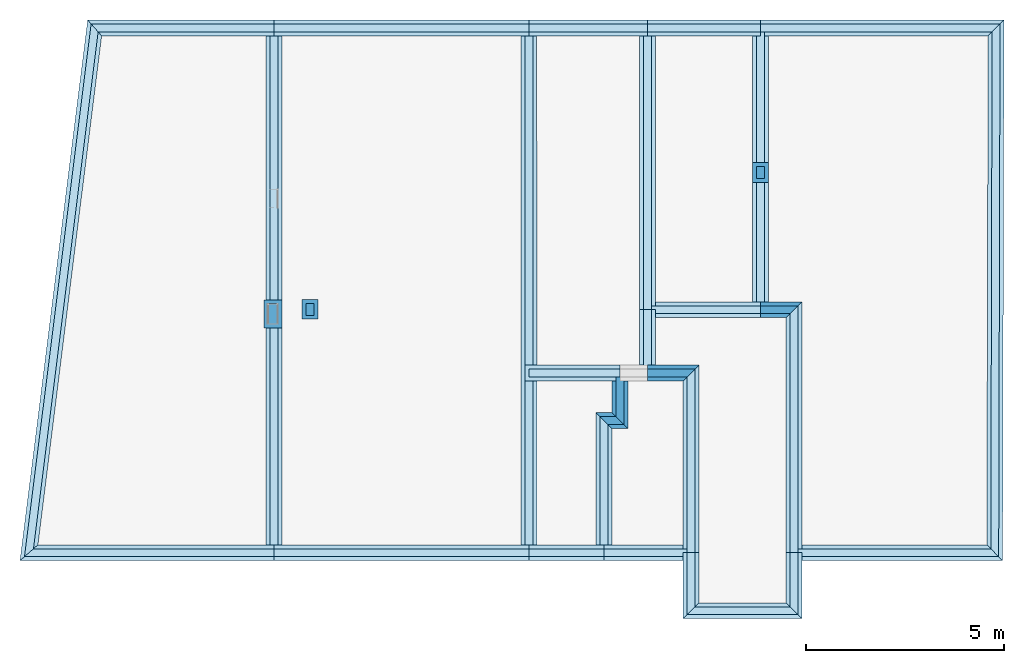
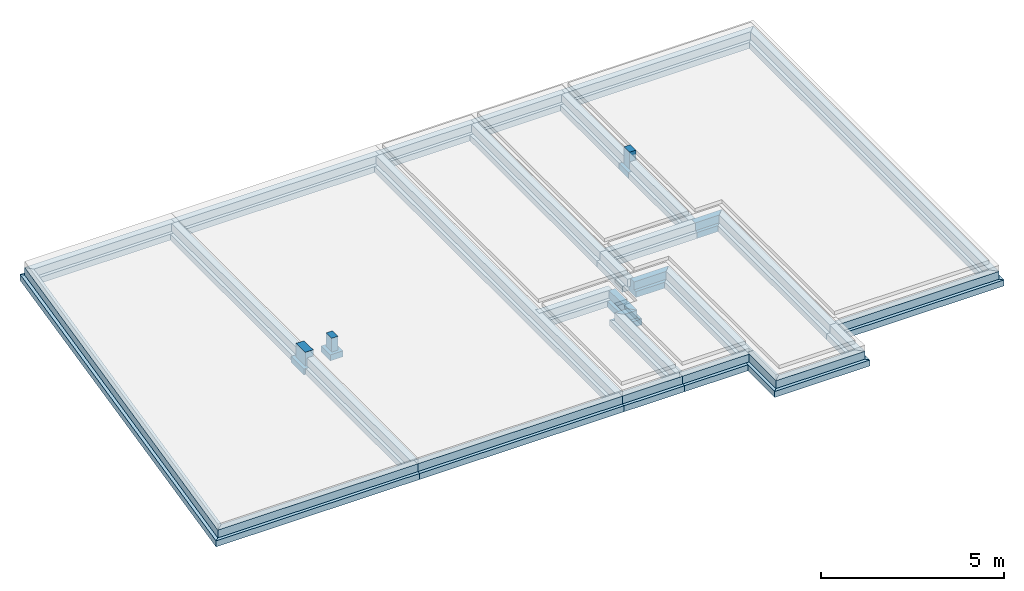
# One storey, part 1 of 6: 33 footings.
"""IFC2X3 building model written with IfcOpenShell, lengths in metres."""

import ifcopenshell
import ifcopenshell.guid

model = None  # the IFC model being written
_history = None  # IfcOwnerHistory: only IFC2X3 demands one
_inside = {}  # id of a spatial element -> (the spatial element, [elements in it])
_under = {}  # id of a project, library or spatial element -> (it, [spatial elements below it])
_declared = {}  # id of a project -> (the project, [libraries it declares])
_typed = {}  # id of a type object -> (the type object, [elements of that type])
_made_of = {}  # id of a material, layer set ... -> (it, [elements and type objects made of it])


def new_model(schema):
    """Start an empty IFC model of exactly this schema.

    Asked for "IFC4X3", IfcOpenShell would pick the latest addendum, in which some entities
    have other attributes; the version numbers below select the first issue.
    IFC2X3 requires an IfcOwnerHistory on every rooted entity: one is made here for all.
    """
    global model, _history
    if schema == "IFC4X3":
        model = ifcopenshell.file(schema_version=(4, 3, 0, 0))
    else:
        model = ifcopenshell.file(schema=schema)
    _inside.clear()
    _under.clear()
    _declared.clear()
    _typed.clear()
    _made_of.clear()
    _history = None
    if model.schema == "IFC2X3":
        org = make("IfcOrganization", Name="unknown")
        user = make(
            "IfcPersonAndOrganization",
            ThePerson=make("IfcPerson", FamilyName="unknown"),
            TheOrganization=org,
        )
        app = make(
            "IfcApplication",
            ApplicationDeveloper=org,
            Version="unknown",
            ApplicationFullName="unknown",
            ApplicationIdentifier="unknown",
        )
        _history = make(
            "IfcOwnerHistory",
            OwningUser=user,
            OwningApplication=app,
            ChangeAction="ADDED",
            CreationDate=0,
        )
    return model


def make(cls, **values):
    """One entity of the class cls with the attributes given. An attribute that is None is left unset."""
    return model.create_entity(
        cls, **{name: value for name, value in values.items() if value is not None}
    )


def rooted(cls, **values):
    """An entity with a GlobalId (a new one), such as an element, a storey or a relation."""
    return make(cls, GlobalId=ifcopenshell.guid.new(), OwnerHistory=_history, **values)


def si_unit(unit_type, name, prefix=None):
    """IfcSIUnit, for example si_unit("LENGTHUNIT", "METRE", prefix="MILLI")."""
    return make("IfcSIUnit", UnitType=unit_type, Prefix=prefix, Name=name)


def assignment(units):
    """IfcUnitAssignment: the units of a project."""
    return None if units is None else make("IfcUnitAssignment", Units=units)


def point(xyz):
    """IfcCartesianPoint."""
    return None if xyz is None else make("IfcCartesianPoint", Coordinates=xyz)


def direction(xyz):
    """IfcDirection."""
    return None if xyz is None else make("IfcDirection", DirectionRatios=xyz)


def frame(location, z_axis=None, x_axis=None):
    """IfcAxis2Placement3D, a coordinate frame: its origin and axes. An axis left out is left unset."""
    return make(
        "IfcAxis2Placement3D",
        Location=point(location),
        Axis=direction(z_axis),
        RefDirection=direction(x_axis),
    )


def frame_2d(location, x_axis=None):
    """IfcAxis2Placement2D, a coordinate frame in the plane: its origin and x axis."""
    return make(
        "IfcAxis2Placement2D", Location=point(location), RefDirection=direction(x_axis)
    )


def origin_with_axes():
    """The frame at (0, 0, 0) with the z axis (0, 0, 1) and the x axis (1, 0, 0) written out."""
    return frame((0.0, 0.0, 0.0), z_axis=(0.0, 0.0, 1.0), x_axis=(1.0, 0.0, 0.0))


def origin_2d():
    """The frame at (0, 0) in the plane with its x axis left unset."""
    return frame_2d((0.0, 0.0))


def place(relative_to, where):
    """IfcLocalPlacement: puts the frame where relative to a parent placement (None: the world)."""
    return make(
        "IfcLocalPlacement", PlacementRelTo=relative_to, RelativePlacement=where
    )


def context(
    kind, dimensions, precision=None, world=None, true_north=None, identifier=None
):
    """IfcGeometricRepresentationContext, for example the 3D "Model" context."""
    return make(
        "IfcGeometricRepresentationContext",
        ContextIdentifier=identifier,
        ContextType=kind,
        CoordinateSpaceDimension=dimensions,
        Precision=precision,
        WorldCoordinateSystem=world,
        TrueNorth=true_north,
    )


def subcontext(parent, identifier, kind, view, scale=None):
    """IfcGeometricRepresentationSubContext, for example "Body" below "Model"."""
    return make(
        "IfcGeometricRepresentationSubContext",
        ContextIdentifier=identifier,
        ContextType=kind,
        ParentContext=parent,
        TargetScale=scale,
        TargetView=view,
    )


def project(units=None, contexts=None):
    """IfcProject with its units and contexts."""
    return rooted(
        "IfcProject",
        Name="project",
        RepresentationContexts=contexts,
        UnitsInContext=assignment(units),
    )


def spatial(cls, under=None, at=None, **own):
    """A site, building, storey or space (cls), placed at a placement, below another one or the project."""
    s = rooted(cls, ObjectPlacement=at, **own)
    if under is not None:
        _under.setdefault(under.id(), (under, []))[1].append(s)
    return s


def polyline(points):
    """IfcPolyline through the points."""
    return make("IfcPolyline", Points=[point(p) for p in points])


def profile(cls, at=None, kind="AREA", **sizes):
    """A parametric profile (cls). Its sizes go by their IFC names, for example OverallWidth=200.0."""
    return make(cls, ProfileType=kind, Position=at, **sizes)


def rectangle(**sizes):
    """IfcRectangleProfileDef."""
    return profile("IfcRectangleProfileDef", **sizes)


def outline(outer, holes=None, kind="AREA"):
    """IfcArbitraryClosedProfileDef: a profile drawn as a closed curve; with holes, ...WithVoids."""
    if holes is None:
        return make("IfcArbitraryClosedProfileDef", ProfileType=kind, OuterCurve=outer)
    return make(
        "IfcArbitraryProfileDefWithVoids",
        ProfileType=kind,
        OuterCurve=outer,
        InnerCurves=holes,
    )


def extrude(swept, where, along, depth):
    """IfcExtrudedAreaSolid: the profile swept, set in the frame where, extruded along a direction by depth."""
    return make(
        "IfcExtrudedAreaSolid",
        SweptArea=swept,
        Position=where,
        ExtrudedDirection=direction(along),
        Depth=depth,
    )


def shape(context_of_items, identifier, shape_type, items):
    """IfcShapeRepresentation: the items that make up one representation, for example the "Body"."""
    return make(
        "IfcShapeRepresentation",
        ContextOfItems=context_of_items,
        RepresentationIdentifier=identifier,
        RepresentationType=shape_type,
        Items=items,
    )


def material(Name=None, Category=None):
    """IfcMaterial."""
    return make("IfcMaterial", Name=Name, Category=Category)


def made_of(thing, what):
    """Note that an element or type object is made of a material, layer set ...; save() writes the relation."""
    if what is not None:
        _made_of.setdefault(what.id(), (what, []))[1].append(thing)
    return thing


def element(
    cls,
    number,
    at=None,
    inside=None,
    cuts=None,
    type_object=None,
    material=None,
    context=None,
    identifier="Body",
    shape_type=None,
    held_by="IfcProductDefinitionShape",
    body=None,
    shapes=None,
    **own,
):
    """One element of the class cls, such as IfcWall. Its Tag is "e" and its number.

    at: its placement. inside: the storey or other place that contains it. cuts: it is an
    opening in that element (IfcRelVoidsElement). A single representation is given by context,
    identifier, shape_type and body (its items); several are given by shapes. held_by: the class
    of the entity that holds the representations. save() writes the other relations.
    """
    e = rooted(cls, Tag="e%d" % number, ObjectPlacement=at, **own)
    if body is not None:
        shapes = [shape(context, identifier, shape_type, body)]
    if shapes is not None:
        e.Representation = make(held_by, Representations=shapes)
    if inside is not None:
        _inside.setdefault(inside.id(), (inside, []))[1].append(e)
    if cuts is not None:
        rooted(
            "IfcRelVoidsElement", RelatingBuildingElement=cuts, RelatedOpeningElement=e
        )
    if type_object is not None:
        _typed.setdefault(type_object.id(), (type_object, []))[1].append(e)
    return made_of(e, material)


def aggregate(whole, parts):
    """IfcRelAggregates: a whole, such as a stair, and the parts it consists of."""
    return rooted("IfcRelAggregates", RelatingObject=whole, RelatedObjects=parts)


def save(model, path):
    """Write the relations noted so far, then the file.

    IfcRelAggregates (storeys below a building ...), IfcRelContainedInSpatialStructure (elements
    in a storey), IfcRelDefinesByType, IfcRelAssociatesMaterial and IfcRelDeclares: one each for
    every whole, place, type object, material and project.
    """
    for whole, parts in _under.values():
        aggregate(whole, parts)
    for where, things in _inside.values():
        rooted(
            "IfcRelContainedInSpatialStructure",
            RelatedElements=things,
            RelatingStructure=where,
        )
    for kind, things in _typed.values():
        rooted("IfcRelDefinesByType", RelatedObjects=things, RelatingType=kind)
    for what, things in _made_of.values():
        rooted("IfcRelAssociatesMaterial", RelatedObjects=things, RelatingMaterial=what)
    for by, libraries in _declared.values():
        rooted("IfcRelDeclares", RelatingContext=by, RelatedDefinitions=libraries)
    model.write(path)


model = new_model("IFC2X3")

# Units and contexts
model_context = context("Model", 3, precision=0.0001, world=origin_with_axes(), true_north=direction((0.0, 1.0)))
plan_context = context("Plan", 2, precision=0.0001, world=origin_with_axes(), true_north=direction((0.0, 1.0)))
body_context = subcontext(model_context, "Body", "Model", "MODEL_VIEW")
ifc_project = project(units=[si_unit("MASSUNIT", "GRAM", prefix="KILO"), si_unit("AREAUNIT", "SQUARE_METRE"), si_unit("LENGTHUNIT", "METRE"), si_unit("VOLUMEUNIT", "CUBIC_METRE")], contexts=[plan_context, model_context])

# Site, building, storey
site_placement = place(None, origin_with_axes())
site = spatial("IfcSite", under=ifc_project, at=site_placement, Name="$", CompositionType="ELEMENT")
building_placement = place(site_placement, origin_with_axes())
building = spatial("IfcBuilding", under=site, at=building_placement, Name="Classeur ENS Ensemble", CompositionType="ELEMENT")
storey_placement = place(building_placement, frame((-20.30778888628, -1.812671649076, 0.0), z_axis=(0.0, 0.0, 1.0), x_axis=(1.0, 0.0, 0.0)))
storey = spatial("IfcBuildingStorey", under=building, at=storey_placement, Name="000 Fondations", CompositionType="ELEMENT", Elevation=0.0)

# Footings
ifc_material = material(Name="Default material")
footing_1_placement = place(storey_placement, frame((20.41370627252, 1.692671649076, -0.7799999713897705), z_axis=(0.0, 0.0, 1.0), x_axis=(1.0, 0.0, 0.0)))
element("IfcFooting", 1, at=footing_1_placement, inside=storey, material=ifc_material, Name="Semelle filante 40x20", PredefinedType="STRIP_FOOTING", context=body_context, shape_type="SweptSolid", held_by="IfcProductRepresentation", body=[
    extrude(outline(polyline([(0.08826448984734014, -0.1000000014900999), (4.529589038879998, -0.1000000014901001), (4.529589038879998, 0.1000000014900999), (-0.0882644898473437, 0.1000000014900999), (0.08826448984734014, -0.1000000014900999)])), frame((0.0, 0.0, 0.2000000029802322), z_axis=(0.0, 0.0, 1.0), x_axis=(1.0, 0.0, 0.0)), (0.0, 0.0, 1.0), 0.260000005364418),
    extrude(outline(polyline([(0.1765289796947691, -0.2000000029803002), (4.529589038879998, -0.2000000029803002), (4.529589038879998, 0.2000000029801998), (-0.1765289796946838, 0.2000000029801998), (0.1765289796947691, -0.2000000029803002)])), origin_with_axes(), (0.0, 0.0, 1.0), 0.2000000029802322),
])
footing_2_placement = place(storey_placement, frame((18.75412664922, -11.56733272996, -0.7799999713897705), z_axis=(0.0, 0.0, 1.0), x_axis=(0.1241879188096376, 0.992258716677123, 0.0)))
element("IfcFooting", 2, at=footing_2_placement, inside=storey, material=ifc_material, Name="Semelle filante 40x20", PredefinedType="STRIP_FOOTING", context=body_context, shape_type="SweptSolid", held_by="IfcProductRepresentation", body=[
    extrude(outline(polyline([(0.1132957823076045, -0.1000000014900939), (13.27519017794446, -0.1000000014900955), (13.45171915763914, 0.1000000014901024), (-0.1132957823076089, 0.1000000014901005), (0.1132957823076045, -0.1000000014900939)])), frame((0.0, 0.0, 0.2000000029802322), z_axis=(0.0, 0.0, 1.0), x_axis=(1.0, 0.0, 0.0)), (0.0, 0.0, 1.0), 0.260000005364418),
    extrude(outline(polyline([(0.2265915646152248, -0.2000000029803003), (13.18692568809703, -0.2000000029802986), (13.53998364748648, 0.2000000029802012), (-0.2265915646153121, 0.2000000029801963), (0.2265915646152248, -0.2000000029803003)])), origin_with_axes(), (0.0, 0.0, 1.0), 0.2000000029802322),
])
footing_3_placement = place(storey_placement, frame((18.75412664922, -11.56733272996, -0.7799999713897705), z_axis=(0.0, 0.0, 1.0), x_axis=(0.9999999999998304, -5.825338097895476e-07, 0.0)))
element("IfcFooting", 3, at=footing_3_placement, inside=storey, material=ifc_material, Name="Semelle filante 40x20", PredefinedType="STRIP_FOOTING", context=body_context, shape_type="SweptSolid", held_by="IfcProductRepresentation", body=[
    extrude(outline(polyline([(-0.2265915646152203, -0.2000000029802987), (6.189168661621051, -0.2000000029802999), (6.189168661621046, 0.2000000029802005), (0.2265915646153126, 0.200000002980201), (-0.2265915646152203, -0.2000000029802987)])), origin_with_axes(), (0.0, 0.0, 1.0), 0.2000000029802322),
    extrude(outline(polyline([(-0.1132957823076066, -0.1000000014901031), (6.189168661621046, -0.1000000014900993), (6.189168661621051, 0.1000000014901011), (0.1132957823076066, 0.1000000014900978), (-0.1132957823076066, -0.1000000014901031)])), frame((0.0, 0.0, 0.2000000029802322), z_axis=(0.0, 0.0, 1.0), x_axis=(1.0, 0.0, 0.0)), (0.0, 0.0, 1.0), 0.260000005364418),
])
footing_4_placement = place(storey_placement, frame((31.38327922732, 1.692671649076, -0.7799999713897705), z_axis=(0.0, 0.0, 1.0), x_axis=(1.0, 0.0, 0.0)))
element("IfcFooting", 4, at=footing_4_placement, inside=storey, material=ifc_material, Name="Semelle filante 40x20", PredefinedType="STRIP_FOOTING", context=body_context, shape_type="SweptSolid", held_by="IfcProductRepresentation", body=[
    extrude(outline(polyline([(0.0, -0.2000000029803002), (3.000016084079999, -0.2000000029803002), (3.000016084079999, 0.2000000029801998), (0.0, 0.2000000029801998), (0.0, -0.2000000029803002)])), origin_with_axes(), (0.0, 0.0, 1.0), 0.2000000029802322),
    extrude(outline(polyline([(0.0, -0.1000000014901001), (3.000016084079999, -0.1000000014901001), (3.000016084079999, 0.1000000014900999), (0.0, 0.1000000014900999), (0.0, -0.1000000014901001)])), frame((0.0, 0.0, 0.2000000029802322), z_axis=(0.0, 0.0, 1.0), x_axis=(1.0, 0.0, 0.0)), (0.0, 0.0, 1.0), 0.260000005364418),
])
footing_5_placement = place(storey_placement, frame((43.15507907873, -11.56732835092, -0.7799999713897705), z_axis=(0.0, 0.0, 1.0), x_axis=(0.002540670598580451, 0.9999967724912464, 0.0)))
element("IfcFooting", 5, at=footing_5_placement, inside=storey, material=ifc_material, Name="Semelle filante 40x20", PredefinedType="STRIP_FOOTING", context=body_context, shape_type="SweptSolid", held_by="IfcProductRepresentation", body=[
    extrude(outline(polyline([(-0.1994925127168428, -0.2000000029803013), (13.46055158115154, -0.2000000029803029), (13.05953401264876, 0.2000000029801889), (0.1994925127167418, 0.2000000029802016), (-0.1994925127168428, -0.2000000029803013)])), origin_with_axes(), (0.0, 0.0, 1.0), 0.2000000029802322),
    extrude(outline(polyline([(-0.09974625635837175, -0.1000000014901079), (13.36029718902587, -0.1000000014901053), (13.15978840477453, 0.1000000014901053), (0.09974625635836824, 0.1000000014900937), (-0.09974625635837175, -0.1000000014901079)])), frame((0.0, 0.0, 0.2000000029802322), z_axis=(0.0, 0.0, 1.0), x_axis=(1.0, 0.0, 0.0)), (0.0, 0.0, 1.0), 0.260000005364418),
])
footing_6_placement = place(storey_placement, frame((38.0832953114, -11.56732835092, -0.7799999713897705), z_axis=(0.0, 0.0, 1.0), x_axis=(1.0, 0.0, 0.0)))
element("IfcFooting", 6, at=footing_6_placement, inside=storey, material=ifc_material, Name="Semelle filante 40x20", PredefinedType="STRIP_FOOTING", context=body_context, shape_type="SweptSolid", held_by="IfcProductRepresentation", body=[
    extrude(outline(polyline([(0.2000000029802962, -0.2000000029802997), (5.271276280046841, -0.200000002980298), (4.872291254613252, 0.2000000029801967), (0.2000000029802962, 0.2000000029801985), (0.2000000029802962, -0.2000000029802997)])), origin_with_axes(), (0.0, 0.0, 1.0), 0.2000000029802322),
    extrude(outline(polyline([(0.1000000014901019, -0.1000000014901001), (5.171530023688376, -0.1000000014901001), (4.972037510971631, 0.1000000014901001), (0.1000000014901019, 0.1000000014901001), (0.1000000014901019, -0.1000000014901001)])), frame((0.0, 0.0, 0.2000000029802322), z_axis=(0.0, 0.0, 1.0), x_axis=(1.0, 0.0, 0.0)), (0.0, 0.0, 1.0), 0.260000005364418),
])
footing_7_placement = place(storey_placement, frame((38.0832953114, -13.03232835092, -0.7799999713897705), z_axis=(0.0, 0.0, 1.0), x_axis=(0.0, 1.0, 0.0)))
element("IfcFooting", 7, at=footing_7_placement, inside=storey, material=ifc_material, Name="Semelle filante 40x20", PredefinedType="STRIP_FOOTING", context=body_context, shape_type="SweptSolid", held_by="IfcProductRepresentation", body=[
    extrude(outline(polyline([(-0.2000000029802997, -0.2000000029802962), (1.465, -0.2000000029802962), (1.465, 0.2000000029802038), (0.2000000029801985, 0.2000000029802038), (-0.2000000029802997, -0.2000000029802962)])), origin_with_axes(), (0.0, 0.0, 1.0), 0.2000000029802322),
    extrude(outline(polyline([(-0.1000000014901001, -0.1000000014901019), (1.465, -0.1000000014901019), (1.465, 0.1000000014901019), (0.1000000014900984, 0.1000000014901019), (-0.1000000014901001, -0.1000000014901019)])), frame((0.0, 0.0, 0.2000000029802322), z_axis=(0.0, 0.0, 1.0), x_axis=(1.0, 0.0, 0.0)), (0.0, 0.0, 1.0), 0.260000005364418),
])
footing_8_placement = place(storey_placement, frame((35.4832953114, -13.03232835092, -0.7799999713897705), z_axis=(0.0, 0.0, 1.0), x_axis=(1.0, 0.0, 0.0)))
element("IfcFooting", 8, at=footing_8_placement, inside=storey, material=ifc_material, Name="Semelle filante 40x20", PredefinedType="STRIP_FOOTING", context=body_context, shape_type="SweptSolid", held_by="IfcProductRepresentation", body=[
    extrude(outline(polyline([(-0.1000000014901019, -0.1000000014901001), (2.700000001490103, -0.1000000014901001), (2.4999999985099, 0.1000000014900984), (0.1000000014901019, 0.1000000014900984), (-0.1000000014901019, -0.1000000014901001)])), frame((0.0, 0.0, 0.2000000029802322), z_axis=(0.0, 0.0, 1.0), x_axis=(1.0, 0.0, 0.0)), (0.0, 0.0, 1.0), 0.260000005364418),
    extrude(outline(polyline([(-0.2000000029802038, -0.2000000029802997), (2.800000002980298, -0.2000000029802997), (2.399999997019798, 0.2000000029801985), (0.2000000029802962, 0.2000000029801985), (-0.2000000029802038, -0.2000000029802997)])), origin_with_axes(), (0.0, 0.0, 1.0), 0.2000000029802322),
])
footing_9_placement = place(storey_placement, frame((38.0832953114, -11.56732835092, -0.7799999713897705), z_axis=(0.0, 0.0, 1.0), x_axis=(0.0, 1.0, 0.0)))
element("IfcFooting", 9, at=footing_9_placement, inside=storey, material=ifc_material, Name="Semelle filante 40x20", PredefinedType="STRIP_FOOTING", context=body_context, shape_type="SweptSolid", held_by="IfcProductRepresentation", body=[
    extrude(outline(polyline([(0.0, -0.2000000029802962), (6.33991408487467, -0.2000000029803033), (5.939923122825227, 0.2000000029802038), (0.0, 0.2000000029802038), (0.0, -0.2000000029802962)])), origin_with_axes(), (0.0, 0.0, 1.0), 0.2000000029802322),
    extrude(outline(polyline([(0.0, -0.1000000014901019), (6.239916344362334, -0.100000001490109), (6.039920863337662, 0.1000000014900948), (0.0, 0.1000000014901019), (0.0, -0.1000000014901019)])), frame((0.0, 0.0, 0.2000000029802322), z_axis=(0.0, 0.0, 1.0), x_axis=(1.0, 0.0, 0.0)), (0.0, 0.0, 1.0), 0.260000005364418),
])
footing_10_placement = place(storey_placement, frame((34.3832953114, -5.427326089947, -0.7799999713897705), z_axis=(0.0, 0.0, 1.0), x_axis=(0.9999999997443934, -2.261003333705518e-05, 0.0)))
element("IfcFooting", 10, at=footing_10_placement, inside=storey, material=ifc_material, Name="Semelle filante 40x20", PredefinedType="STRIP_FOOTING", context=body_context, shape_type="SweptSolid", held_by="IfcProductRepresentation", body=[
    extrude(outline(polyline([(0.2000045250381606, -0.2000000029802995), (2.849999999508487, -0.2000000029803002), (2.849999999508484, 0.2000000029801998), (0.1999954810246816, 0.2000000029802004), (0.2000045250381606, -0.2000000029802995)])), origin_with_axes(), (0.0, 0.0, 1.0), 0.2000000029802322),
    extrude(outline(polyline([(0.1000022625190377, -0.1000000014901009), (2.849999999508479, -0.1000000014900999), (2.849999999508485, 0.1000000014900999), (0.0999977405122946, 0.1000000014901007), (0.1000022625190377, -0.1000000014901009)])), frame((0.0, 0.0, 0.2000000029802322), z_axis=(0.0, 0.0, 1.0), x_axis=(1.0, 0.0, 0.0)), (0.0, 0.0, 1.0), 0.260000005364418),
])
footing_11_placement = place(storey_placement, frame((34.3832953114, -5.427326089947, -0.7799999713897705), z_axis=(0.0, 0.0, 1.0), x_axis=(0.0, 0.9999999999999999, 0.0)))
element("IfcFooting", 11, at=footing_11_placement, inside=storey, material=ifc_material, Name="Semelle filante 40x20", PredefinedType="STRIP_FOOTING", context=body_context, shape_type="SweptSolid", held_by="IfcProductRepresentation", body=[
    extrude(outline(polyline([(0.0, -0.2000000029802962), (6.919997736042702, -0.2000000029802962), (6.919997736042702, 0.2000000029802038), (0.0, 0.2000000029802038), (0.0, -0.2000000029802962)])), origin_with_axes(), (0.0, 0.0, 1.0), 0.2000000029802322),
    extrude(outline(polyline([(0.0, -0.1000000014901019), (7.019997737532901, -0.1000000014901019), (7.019997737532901, 0.1000000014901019), (0.0, 0.1000000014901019), (0.0, -0.1000000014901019)])), frame((0.0, 0.0, 0.2000000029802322), z_axis=(0.0, 0.0, 1.0), x_axis=(1.0, 0.0, 0.0)), (0.0, 0.0, 1.0), 0.260000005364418),
])
footing_12_placement = place(storey_placement, frame((34.3832953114, 1.692671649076, -0.7799999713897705), z_axis=(0.0, 0.0, 1.0), x_axis=(1.0, 0.0, 0.0)))
element("IfcFooting", 12, at=footing_12_placement, inside=storey, material=ifc_material, Name="Semelle filante 40x20", PredefinedType="STRIP_FOOTING", context=body_context, shape_type="SweptSolid", held_by="IfcProductRepresentation", body=[
    extrude(outline(polyline([(0.0, -0.2000000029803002), (2.850000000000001, -0.2000000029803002), (2.850000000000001, 0.2000000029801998), (0.0, 0.2000000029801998), (0.0, -0.2000000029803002)])), origin_with_axes(), (0.0, 0.0, 1.0), 0.2000000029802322),
    extrude(outline(polyline([(0.0, -0.1000000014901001), (2.850000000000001, -0.1000000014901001), (2.850000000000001, 0.1000000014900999), (0.0, 0.1000000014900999), (0.0, -0.1000000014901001)])), frame((0.0, 0.0, 0.2000000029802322), z_axis=(0.0, 0.0, 1.0), x_axis=(1.0, 0.0, 0.0)), (0.0, 0.0, 1.0), 0.260000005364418),
])
footing_13_placement = place(storey_placement, frame((35.4832953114, -13.03232835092, -0.7799999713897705), z_axis=(0.0, 0.0, 1.0), x_axis=(0.0, 1.0, 0.0)))
element("IfcFooting", 13, at=footing_13_placement, inside=storey, material=ifc_material, Name="Semelle filante 40x20", PredefinedType="STRIP_FOOTING", context=body_context, shape_type="SweptSolid", held_by="IfcProductRepresentation", body=[
    extrude(outline(polyline([(0.2000000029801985, -0.2000000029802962), (1.465, -0.2000000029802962), (1.465, 0.2000000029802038), (-0.2000000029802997, 0.2000000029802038), (0.2000000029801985, -0.2000000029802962)])), origin_with_axes(), (0.0, 0.0, 1.0), 0.2000000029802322),
    extrude(outline(polyline([(0.1000000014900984, -0.1000000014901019), (1.465, -0.1000000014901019), (1.465, 0.1000000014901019), (-0.1000000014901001, 0.1000000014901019), (0.1000000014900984, -0.1000000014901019)])), frame((0.0, 0.0, 0.2000000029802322), z_axis=(0.0, 0.0, 1.0), x_axis=(1.0, 0.0, 0.0)), (0.0, 0.0, 1.0), 0.260000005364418),
])
footing_14_placement = place(storey_placement, frame((31.38327922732, 1.692671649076, -0.7799999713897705), z_axis=(0.0, 0.0, 1.0), x_axis=(0.0001608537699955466, -0.9999999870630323, 0.0)))
element("IfcFooting", 14, at=footing_14_placement, inside=storey, material=ifc_material, Name="Semelle filante 40x20", PredefinedType="STRIP_FOOTING", context=body_context, shape_type="SweptSolid", held_by="IfcProductRepresentation", body=[
    extrude(outline(polyline([(0.09998391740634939, -0.1000000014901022), (13.15998599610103, -0.1000000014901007), (13.16001797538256, 0.1000000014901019), (0.1000160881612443, 0.1000000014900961), (0.09998391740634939, -0.1000000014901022)])), frame((0.0, 0.0, 0.2000000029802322), z_axis=(0.0, 0.0, 1.0), x_axis=(1.0, 0.0, 0.0)), (0.0, 0.0, 1.0), 0.260000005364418),
    extrude(outline(polyline([(0.1999678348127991, -0.2000000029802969), (13.05997000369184, -0.2000000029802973), (13.06003396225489, 0.2000000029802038), (0.2000321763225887, 0.2000000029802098), (0.1999678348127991, -0.2000000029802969)])), origin_with_axes(), (0.0, 0.0, 1.0), 0.2000000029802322),
])
footing_15_placement = place(storey_placement, frame((35.4832953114, -11.56732835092, -0.7799999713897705), z_axis=(0.0, 0.0, 1.0), x_axis=(0.0, 1.0, 0.0)))
element("IfcFooting", 15, at=footing_15_placement, inside=storey, material=ifc_material, Name="Semelle filante 40x20", PredefinedType="STRIP_FOOTING", context=body_context, shape_type="SweptSolid", held_by="IfcProductRepresentation", body=[
    extrude(outline(polyline([(0.0, -0.2000000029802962), (4.740000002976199, -0.2000000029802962), (4.339999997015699, 0.2000000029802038), (0.0, 0.2000000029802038), (0.0, -0.2000000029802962)])), origin_with_axes(), (0.0, 0.0, 1.0), 0.2000000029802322),
    extrude(outline(polyline([(0.0, -0.1000000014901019), (4.640000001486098, -0.1000000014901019), (4.439999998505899, 0.1000000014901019), (0.0, 0.1000000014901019), (0.0, -0.1000000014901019)])), frame((0.0, 0.0, 0.2000000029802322), z_axis=(0.0, 0.0, 1.0), x_axis=(1.0, 0.0, 0.0)), (0.0, 0.0, 1.0), 0.260000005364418),
])
footing_16_placement = place(storey_placement, frame((31.38468187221, -7.027328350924, -0.7799999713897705), z_axis=(0.0, 0.0, 1.0), x_axis=(1.0, 0.0, 0.0)))
element("IfcFooting", 16, at=footing_16_placement, inside=storey, material=ifc_material, Name="Semelle filante 40x20", PredefinedType="STRIP_FOOTING", context=body_context, shape_type="SweptSolid", held_by="IfcProductRepresentation", body=[
    extrude(outline(polyline([(0.0, -0.1000000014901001), (2.298613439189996, -0.1000000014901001), (2.298613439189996, 0.1000000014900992), (0.0, 0.1000000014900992), (0.0, -0.1000000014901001)])), frame((0.0, 0.0, 0.2000000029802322), z_axis=(0.0, 0.0, 1.0), x_axis=(1.0, 0.0, 0.0)), (0.0, 0.0, 1.0), 0.260000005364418),
    extrude(outline(polyline([(-0.1000000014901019, -0.2000000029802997), (2.298613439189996, -0.2000000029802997), (2.298613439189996, 0.2000000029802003), (-0.1000000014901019, 0.2000000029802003), (-0.1000000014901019, -0.2000000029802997)])), origin_with_axes(), (0.0, 0.0, 1.0), 0.2000000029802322),
])
footing_17_placement = place(storey_placement, frame((34.3832953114, -7.027328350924, -0.7799999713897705), z_axis=(0.0, 0.0, 1.0), x_axis=(0.0, 0.9999999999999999, 0.0)))
element("IfcFooting", 17, at=footing_17_placement, inside=storey, material=ifc_material, Name="Semelle filante 40x20", PredefinedType="STRIP_FOOTING", context=body_context, shape_type="SweptSolid", held_by="IfcProductRepresentation", body=[
    extrude(outline(polyline([(0.2000000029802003, -0.2000000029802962), (1.600002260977, -0.2000000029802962), (1.600002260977, 0.2000000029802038), (0.2000000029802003, 0.2000000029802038), (0.2000000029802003, -0.2000000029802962)])), origin_with_axes(), (0.0, 0.0, 1.0), 0.2000000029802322),
    extrude(outline(polyline([(0.1000000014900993, -0.1000000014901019), (1.600002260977, -0.1000000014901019), (1.600002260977, 0.1000000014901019), (0.1000000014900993, 0.1000000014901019), (0.1000000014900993, -0.1000000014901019)])), frame((0.0, 0.0, 0.2000000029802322), z_axis=(0.0, 0.0, 1.0), x_axis=(1.0, 0.0, 0.0)), (0.0, 0.0, 1.0), 0.260000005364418),
])
footing_18_placement = place(storey_placement, frame((34.3832953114, -7.027328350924, -0.7799999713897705), z_axis=(0.0, 0.0, 1.0), x_axis=(1.0, 0.0, 0.0)))
element("IfcFooting", 18, at=footing_18_placement, inside=storey, material=ifc_material, Name="Semelle filante 40x20", PredefinedType="STRIP_FOOTING", context=body_context, shape_type="SweptSolid", held_by="IfcProductRepresentation", body=[
    extrude(outline(polyline([(0.0, -0.2000000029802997), (0.8999999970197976, -0.2000000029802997), (1.300000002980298, 0.2000000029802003), (0.0, 0.2000000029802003), (0.0, -0.2000000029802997)])), origin_with_axes(), (0.0, 0.0, 1.0), 0.2000000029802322),
    extrude(outline(polyline([(0.0, -0.1000000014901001), (0.9999999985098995, -0.1000000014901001), (1.200000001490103, 0.1000000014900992), (0.0, 0.1000000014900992), (0.0, -0.1000000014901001)])), frame((0.0, 0.0, 0.2000000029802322), z_axis=(0.0, 0.0, 1.0), x_axis=(1.0, 0.0, 0.0)), (0.0, 0.0, 1.0), 0.260000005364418),
])
footing_19_placement = place(storey_placement, frame((33.2832953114, -11.56732835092, -0.7799999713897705), z_axis=(0.0, 0.0, 1.0), x_axis=(0.0, 1.0, 0.0)))
element("IfcFooting", 19, at=footing_19_placement, inside=storey, material=ifc_material, Name="Semelle filante 40x20", PredefinedType="STRIP_FOOTING", context=body_context, shape_type="SweptSolid", held_by="IfcProductRepresentation", body=[
    extrude(outline(polyline([(0.1000000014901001, -0.1000000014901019), (3.239999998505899, -0.1000000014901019), (3.4400000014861, 0.1000000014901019), (0.0999999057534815, 0.1000000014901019), (0.1000000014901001, -0.1000000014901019)])), frame((0.0, 0.0, 0.2000000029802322), z_axis=(0.0, 0.0, 1.0), x_axis=(1.0, 0.0, 0.0)), (0.0, 0.0, 1.0), 0.260000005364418),
    extrude(outline(polyline([(0.2000000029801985, -0.2000000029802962), (3.1399999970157, -0.2000000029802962), (3.5400000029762, 0.2000000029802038), (0.1999998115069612, 0.2000000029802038), (0.2000000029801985, -0.2000000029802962)])), origin_with_axes(), (0.0, 0.0, 1.0), 0.2000000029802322),
])
footing_20_placement = place(storey_placement, frame((33.2832953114, -11.56732835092, -0.7799999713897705), z_axis=(0.0, 0.0, 1.0), x_axis=(1.0, 0.0, 0.0)))
element("IfcFooting", 20, at=footing_20_placement, inside=storey, material=ifc_material, Name="Semelle filante 40x20", PredefinedType="STRIP_FOOTING", context=body_context, shape_type="SweptSolid", held_by="IfcProductRepresentation", body=[
    extrude(outline(polyline([(0.0, -0.1000000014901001), (2.099999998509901, -0.1000000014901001), (2.099999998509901, 0.1000000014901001), (0.0, 0.1000000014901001), (0.0, -0.1000000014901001)])), frame((0.0, 0.0, 0.2000000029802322), z_axis=(0.0, 0.0, 1.0), x_axis=(1.0, 0.0, 0.0)), (0.0, 0.0, 1.0), 0.260000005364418),
    extrude(outline(polyline([(0.0, -0.2000000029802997), (1.999999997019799, -0.2000000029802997), (1.999999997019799, 0.2000000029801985), (0.0, 0.2000000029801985), (0.0, -0.2000000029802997)])), origin_with_axes(), (0.0, 0.0, 1.0), 0.2000000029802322),
])
footing_21_placement = place(storey_placement, frame((33.2832953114, -8.227328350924, -0.7799999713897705), z_axis=(0.0, 0.0, 1.0), x_axis=(1.0, 0.0, 0.0)))
element("IfcFooting", 21, at=footing_21_placement, inside=storey, material=ifc_material, Name="Semelle filante 40x20", PredefinedType="STRIP_FOOTING", context=body_context, shape_type="SweptSolid", held_by="IfcProductRepresentation", body=[
    extrude(outline(polyline([(0.2000000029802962, -0.2000000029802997), (0.6000000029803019, -0.2000000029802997), (0.1999999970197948, 0.2000000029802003), (-0.2000000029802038, 0.2000000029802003), (0.2000000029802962, -0.2000000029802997)])), origin_with_axes(), (0.0, 0.0, 1.0), 0.2000000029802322),
    extrude(outline(polyline([(0.1000000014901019, -0.1000000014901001), (0.5000000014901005, -0.1000000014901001), (0.2999999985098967, 0.1000000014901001), (-0.1000000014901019, 0.1000000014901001), (0.1000000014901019, -0.1000000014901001)])), frame((0.0, 0.0, 0.2000000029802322), z_axis=(0.0, 0.0, 1.0), x_axis=(1.0, 0.0, 0.0)), (0.0, 0.0, 1.0), 0.260000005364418),
])
footing_22_placement = place(storey_placement, frame((33.68329531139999, -8.227328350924, -0.7799999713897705), z_axis=(0.0, 0.0, 1.0), x_axis=(0.0, 1.0, 0.0)))
element("IfcFooting", 22, at=footing_22_placement, inside=storey, material=ifc_material, Name="Semelle filante 40x20", PredefinedType="STRIP_FOOTING", context=body_context, shape_type="SweptSolid", held_by="IfcProductRepresentation", body=[
    extrude(outline(polyline([(-0.1000000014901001, -0.1000000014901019), (1.099999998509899, -0.1000000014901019), (1.099999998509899, 0.1000000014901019), (0.1000000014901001, 0.1000000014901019), (-0.1000000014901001, -0.1000000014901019)])), frame((0.0, 0.0, 0.2000000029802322), z_axis=(0.0, 0.0, 1.0), x_axis=(1.0, 0.0, 0.0)), (0.0, 0.0, 1.0), 0.260000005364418),
    extrude(outline(polyline([(-0.2000000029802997, -0.2000000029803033), (0.9999999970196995, -0.2000000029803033), (0.9999999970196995, 0.2000000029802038), (0.2000000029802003, 0.2000000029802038), (-0.2000000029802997, -0.2000000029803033)])), origin_with_axes(), (0.0, 0.0, 1.0), 0.2000000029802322),
])
footing_23_placement = place(storey_placement, frame((24.9182953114, -5.787328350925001, -0.7799999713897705), z_axis=(0.0, 0.0, 1.0), x_axis=(0.0, 1.0, 0.0)))
element("IfcFooting", 23, at=footing_23_placement, inside=storey, material=ifc_material, Name="Semelle filante 40x20", PredefinedType="PAD_FOOTING", context=body_context, shape_type="SweptSolid", held_by="IfcProductRepresentation", body=[
    extrude(rectangle(XDim=0.5, YDim=0.25, at=origin_2d()), frame((0.25, 0.0, 0.2000000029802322), z_axis=(0.0, 0.0, 1.0), x_axis=(1.0, 0.0, 0.0)), (0.0, 0.0, 1.0), 0.4600000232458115),
    extrude(rectangle(XDim=0.699999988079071, YDim=0.449999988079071, at=origin_2d()), frame((0.2500000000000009, 7.450552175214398e-09, 0.0), z_axis=(0.0, 0.0, 1.0), x_axis=(1.0, 0.0, 0.0)), (0.0, 0.0, 1.0), 0.2000000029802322),
])
footing_24_placement = place(storey_placement, frame((25.85106533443, -5.567479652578, -0.7799999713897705), z_axis=(0.0, 0.0, 1.0), x_axis=(0.0, 1.0, 0.0)))
element("IfcFooting", 24, at=footing_24_placement, inside=storey, material=ifc_material, Name="Semelle filante 40x20", PredefinedType="PAD_FOOTING", context=body_context, shape_type="SweptSolid", held_by="IfcProductRepresentation", body=[
    extrude(rectangle(XDim=0.300000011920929, YDim=0.2000000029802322, at=origin_2d()), frame((0.1500000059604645, 0.0, 0.2000000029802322), z_axis=(0.0, 0.0, 1.0), x_axis=(1.0, 0.0, 0.0)), (0.0, 0.0, 1.0), 0.4600000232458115),
    extrude(rectangle(XDim=0.5, YDim=0.4000000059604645, at=origin_2d()), frame((0.1499999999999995, -5.329070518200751e-14, 0.0), z_axis=(0.0, 0.0, 1.0), x_axis=(1.0, 0.0, 0.0)), (0.0, 0.0, 1.0), 0.2000000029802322),
])
footing_25_placement = place(storey_placement, frame((37.2332953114, -2.112328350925, -0.7799999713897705), z_axis=(0.0, 0.0, 1.0), x_axis=(0.0, 1.0, 0.0)))
element("IfcFooting", 25, at=footing_25_placement, inside=storey, material=ifc_material, Name="Semelle filante 40x20", PredefinedType="PAD_FOOTING", context=body_context, shape_type="SweptSolid", held_by="IfcProductRepresentation", body=[
    extrude(rectangle(XDim=0.5, YDim=0.4000000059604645, at=origin_2d()), frame((0.1499999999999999, -4.263256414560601e-14, 0.0), z_axis=(0.0, 0.0, 1.0), x_axis=(1.0, 0.0, 0.0)), (0.0, 0.0, 1.0), 0.2000000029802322),
    extrude(rectangle(XDim=0.300000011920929, YDim=0.2000000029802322, at=origin_2d()), frame((0.1500000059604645, 0.0, 0.2000000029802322), z_axis=(0.0, 0.0, 1.0), x_axis=(1.0, 0.0, 0.0)), (0.0, 0.0, 1.0), 0.5799999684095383),
])
footing_26_placement = place(storey_placement, frame((24.94329531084, -11.56733633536, -0.7799999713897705), z_axis=(0.0, 0.0, 1.0), x_axis=(4.223225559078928e-11, 0.9999999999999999, 0.0)))
element("IfcFooting", 26, at=footing_26_placement, inside=storey, material=ifc_material, Name="Semelle filante 40x20", PredefinedType="STRIP_FOOTING", context=body_context, shape_type="SweptSolid", held_by="IfcProductRepresentation", body=[
    extrude(outline(polyline([(0.1000000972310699, -0.1000000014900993), (13.16000798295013, -0.1000000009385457), (13.16000798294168, 0.1000000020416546), (0.1000000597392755, 0.100000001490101), (0.1000000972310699, -0.1000000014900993)])), frame((0.0, 0.0, 0.2000000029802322), z_axis=(0.0, 0.0, 1.0), x_axis=(1.0, 0.0, 0.0)), (0.0, 0.0, 1.0), 0.260000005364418),
    extrude(outline(polyline([(0.2000001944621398, -0.2000000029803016), (13.06000798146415, -0.2000000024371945), (13.06000798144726, 0.2000000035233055), (0.200000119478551, 0.2000000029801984), (0.2000001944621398, -0.2000000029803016)])), origin_with_axes(), (0.0, 0.0, 1.0), 0.2000000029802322),
])
footing_27_placement = place(storey_placement, frame((24.94329531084, -11.56733633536, -0.7799999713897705), z_axis=(0.0, 0.0, 1.0), x_axis=(0.9999999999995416, 9.573669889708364e-07, 0.0)))
element("IfcFooting", 27, at=footing_27_placement, inside=storey, material=ifc_material, Name="Semelle filante 40x20", PredefinedType="STRIP_FOOTING", context=body_context, shape_type="SweptSolid", held_by="IfcProductRepresentation", body=[
    extrude(outline(polyline([(4.284912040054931e-17, -0.200000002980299), (6.442116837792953, -0.2000000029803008), (6.442116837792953, 0.2000000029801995), (-4.294266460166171e-17, 0.2000000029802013), (4.284912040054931e-17, -0.200000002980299)])), origin_with_axes(), (0.0, 0.0, 1.0), 0.2000000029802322),
    extrude(outline(polyline([(1.797829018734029e-15, -0.1000000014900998), (6.442116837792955, -0.1000000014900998), (6.442116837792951, 0.1000000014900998), (-1.797829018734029e-15, 0.1000000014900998), (1.797829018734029e-15, -0.1000000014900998)])), frame((0.0, 0.0, 0.2000000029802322), z_axis=(0.0, 0.0, 1.0), x_axis=(1.0, 0.0, 0.0)), (0.0, 0.0, 1.0), 0.260000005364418),
])
footing_28_placement = place(storey_placement, frame((24.9432953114, 1.692671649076, -0.7799999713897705), z_axis=(0.0, 0.0, 1.0), x_axis=(1.0, 0.0, 0.0)))
element("IfcFooting", 28, at=footing_28_placement, inside=storey, material=ifc_material, Name="Semelle filante 40x20", PredefinedType="STRIP_FOOTING", context=body_context, shape_type="SweptSolid", held_by="IfcProductRepresentation", body=[
    extrude(outline(polyline([(0.0, -0.2000000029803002), (6.439983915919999, -0.2000000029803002), (6.439983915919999, 0.2000000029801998), (0.0, 0.2000000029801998), (0.0, -0.2000000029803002)])), origin_with_axes(), (0.0, 0.0, 1.0), 0.2000000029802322),
    extrude(outline(polyline([(0.0, -0.1000000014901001), (6.439983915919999, -0.1000000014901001), (6.439983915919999, 0.1000000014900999), (0.0, 0.1000000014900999), (0.0, -0.1000000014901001)])), frame((0.0, 0.0, 0.2000000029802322), z_axis=(0.0, 0.0, 1.0), x_axis=(1.0, 0.0, 0.0)), (0.0, 0.0, 1.0), 0.260000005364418),
])
footing_29_placement = place(storey_placement, frame((37.23329531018, -5.427390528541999, -0.7799999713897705), z_axis=(0.0, 0.0, 1.0), x_axis=(3.68015652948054e-10, 1.0, 0.0)))
element("IfcFooting", 29, at=footing_29_placement, inside=storey, material=ifc_material, Name="Semelle filante 40x20", PredefinedType="STRIP_FOOTING", context=body_context, shape_type="SweptSolid", held_by="IfcProductRepresentation", body=[
    extrude(outline(polyline([(0.1999954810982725, -0.2000000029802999), (3.315062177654, -0.2000000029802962), (3.315062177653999, 0.2000000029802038), (0.2000045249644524, 0.2000000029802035), (0.1999954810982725, -0.2000000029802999)])), origin_with_axes(), (0.0, 0.0, 1.0), 0.2000000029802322),
    extrude(outline(polyline([(0.09999774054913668, -0.1000000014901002), (3.315062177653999, -0.1000000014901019), (3.315062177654, 0.1000000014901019), (0.1000022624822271, 0.1000000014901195), (0.09999774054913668, -0.1000000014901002)])), frame((0.0, 0.0, 0.2000000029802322), z_axis=(0.0, 0.0, 1.0), x_axis=(1.0, 0.0, 0.0)), (0.0, 0.0, 1.0), 0.260000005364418),
])
footing_30_placement = place(storey_placement, frame((37.23329531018, -5.427390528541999, -0.7799999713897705), z_axis=(0.0, 0.0, 1.0), x_axis=(0.9999999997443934, -2.261003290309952e-05, 0.0)))
element("IfcFooting", 30, at=footing_30_placement, inside=storey, material=ifc_material, Name="Semelle filante 40x20", PredefinedType="STRIP_FOOTING", context=body_context, shape_type="SweptSolid", held_by="IfcProductRepresentation", body=[
    extrude(outline(polyline([(-7.226424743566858e-15, -0.1000000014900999), (0.750002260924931, -0.1000000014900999), (0.9499977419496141, 0.100000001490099), (1.209973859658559e-16, 0.1000000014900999), (-7.226424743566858e-15, -0.1000000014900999)])), frame((0.0, 0.0, 0.2000000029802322), z_axis=(0.0, 0.0, 1.0), x_axis=(1.0, 0.0, 0.0)), (0.0, 0.0, 1.0), 0.260000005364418),
    extrude(outline(polyline([(-2.397255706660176e-16, -0.2000000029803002), (0.6500045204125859, -0.2000000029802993), (1.049995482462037, 0.2000000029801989), (-6.86343258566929e-15, 0.2000000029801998), (-2.397255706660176e-16, -0.2000000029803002)])), origin_with_axes(), (0.0, 0.0, 1.0), 0.2000000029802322),
])
footing_31_placement = place(storey_placement, frame((37.2332953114, -2.112328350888, -0.7799999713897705), z_axis=(0.0, 0.0, 1.0), x_axis=(0.0, 1.0, 0.0)))
element("IfcFooting", 31, at=footing_31_placement, inside=storey, material=ifc_material, Name="Semelle filante 40x20", PredefinedType="STRIP_FOOTING", context=body_context, shape_type="SweptSolid", held_by="IfcProductRepresentation", body=[
    extrude(outline(polyline([(0.0, -0.1000000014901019), (3.7049999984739, -0.1000000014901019), (3.7049999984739, 0.1000000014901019), (0.0, 0.1000000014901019), (0.0, -0.1000000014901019)])), frame((0.0, 0.0, 0.2000000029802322), z_axis=(0.0, 0.0, 1.0), x_axis=(1.0, 0.0, 0.0)), (0.0, 0.0, 1.0), 0.260000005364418),
    extrude(outline(polyline([(0.0, -0.2000000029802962), (3.604999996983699, -0.2000000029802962), (3.604999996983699, 0.2000000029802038), (0.0, 0.2000000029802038), (0.0, -0.2000000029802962)])), origin_with_axes(), (0.0, 0.0, 1.0), 0.2000000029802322),
])
footing_32_placement = place(storey_placement, frame((37.2332953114, 1.692671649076, -0.7799999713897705), z_axis=(0.0, 0.0, 1.0), x_axis=(1.0, 0.0, 0.0)))
element("IfcFooting", 32, at=footing_32_placement, inside=storey, material=ifc_material, Name="Semelle filante 40x20", PredefinedType="STRIP_FOOTING", context=body_context, shape_type="SweptSolid", held_by="IfcProductRepresentation", body=[
    extrude(outline(polyline([(0.0, -0.2000000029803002), (5.754964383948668, -0.2000000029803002), (6.155981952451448, 0.2000000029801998), (0.0, 0.2000000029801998), (0.0, -0.2000000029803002)])), origin_with_axes(), (0.0, 0.0, 1.0), 0.2000000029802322),
    extrude(outline(polyline([(0.0, -0.1000000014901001), (5.855218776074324, -0.1000000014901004), (6.055727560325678, 0.1000000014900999), (0.0, 0.1000000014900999), (0.0, -0.1000000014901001)])), frame((0.0, 0.0, 0.2000000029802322), z_axis=(0.0, 0.0, 1.0), x_axis=(1.0, 0.0, 0.0)), (0.0, 0.0, 1.0), 0.260000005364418),
])
footing_33_placement = place(storey_placement, frame((31.38541214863, -11.56733016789, -0.7799999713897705), z_axis=(0.0, 0.0, 1.0), x_axis=(0.9999999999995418, 9.573666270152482e-07, 0.0)))
element("IfcFooting", 33, at=footing_33_placement, inside=storey, material=ifc_material, Name="Semelle filante 40x20", PredefinedType="STRIP_FOOTING", context=body_context, shape_type="SweptSolid", held_by="IfcProductRepresentation", body=[
    extrude(outline(polyline([(1.379692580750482e-15, -0.2000000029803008), (1.897883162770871, -0.2000000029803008), (1.897883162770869, 0.2000000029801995), (-1.379789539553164e-15, 0.2000000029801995), (1.379692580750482e-15, -0.2000000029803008)])), origin_with_axes(), (0.0, 0.0, 1.0), 0.2000000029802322),
    extrude(outline(polyline([(-1.086462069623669e-15, -0.1000000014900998), (1.897883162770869, -0.1000000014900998), (1.897883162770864, 0.1000000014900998), (-2.466251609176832e-15, 0.1000000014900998), (-1.086462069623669e-15, -0.1000000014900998)])), frame((0.0, 0.0, 0.2000000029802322), z_axis=(0.0, 0.0, 1.0), x_axis=(1.0, 0.0, 0.0)), (0.0, 0.0, 1.0), 0.260000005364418),
])

save(model, "model.ifc")
